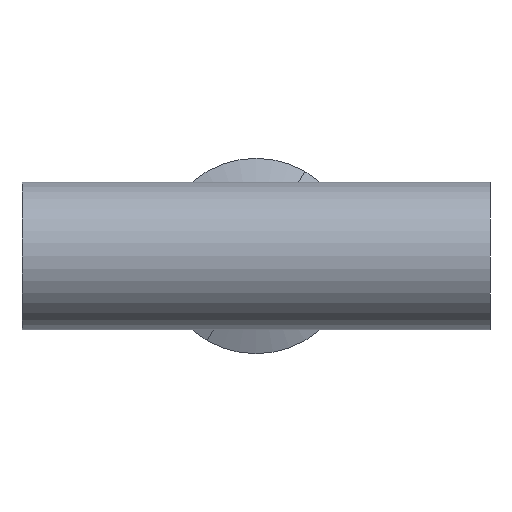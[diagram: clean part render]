
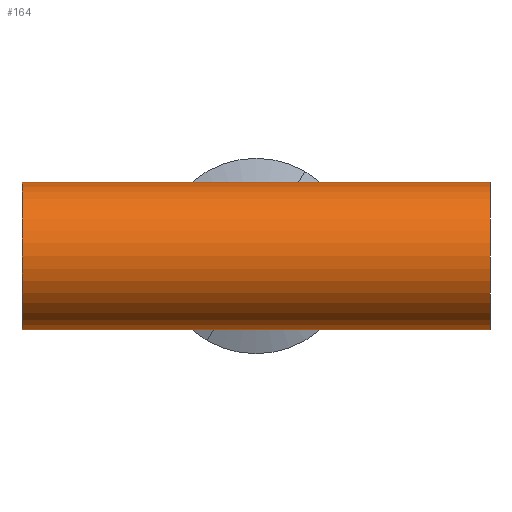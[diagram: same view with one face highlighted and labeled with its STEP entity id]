
A CAD part, front view. The second image highlights one B-rep face of the part: STEP entity #164.
In plain terms, the highlighted cylindrical face has radius 19.05 mm (diameter 38.1 mm), a partial arc.
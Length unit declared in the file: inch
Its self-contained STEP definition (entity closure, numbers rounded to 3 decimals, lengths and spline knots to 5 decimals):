
#6 = CARTESIAN_POINT ( 'NONE',  ( 2.375, 0., 0.75 ) ) ;
#63 = VERTEX_POINT ( 'NONE', #632 ) ;
#65 = LINE ( 'NONE', #365, #1475 ) ;
#72 = CARTESIAN_POINT ( 'NONE',  ( 0., 0., -0.75 ) ) ;
#120 = CARTESIAN_POINT ( 'NONE',  ( -2.375, 0., 0.75 ) ) ;
#151 = AXIS2_PLACEMENT_3D ( 'NONE', #352, #349, #702 ) ;
#164 = ADVANCED_FACE ( 'NONE', ( #1234 ), #1193, .T. ) ;
#176 = CIRCLE ( 'NONE', #151, 0.75 ) ;
#182 = CARTESIAN_POINT ( 'NONE',  ( 2.375, 0., -0.75 ) ) ;
#234 = EDGE_CURVE ( 'NONE', #63, #1056, #65, .T. ) ;
#263 = CARTESIAN_POINT ( 'NONE',  ( 0., 0., 0.75 ) ) ;
#286 = ORIENTED_EDGE ( 'NONE', *, *, #963, .F. ) ;
#310 = ORIENTED_EDGE ( 'NONE', *, *, #234, .F. ) ;
#349 = DIRECTION ( 'NONE',  ( 1., 0., 0. ) ) ;
#352 = CARTESIAN_POINT ( 'NONE',  ( 2.375, 0., 0. ) ) ;
#365 = CARTESIAN_POINT ( 'NONE',  ( 2.375, 0., -0.75 ) ) ;
#380 = CARTESIAN_POINT ( 'NONE',  ( -2.375, 0., 0. ) ) ;
#390 = LINE ( 'NONE', #551, #1212 ) ;
#421 = LINE ( 'NONE', #182, #1283 ) ;
#443 = DIRECTION ( 'NONE',  ( -1., 0., 0. ) ) ;
#487 = LINE ( 'NONE', #6, #521 ) ;
#495 = DIRECTION ( 'NONE',  ( 0., 0., -1. ) ) ;
#521 = VECTOR ( 'NONE', #1374, 39.37008 ) ;
#551 = CARTESIAN_POINT ( 'NONE',  ( 2.375, 0., 0.75 ) ) ;
#586 = EDGE_LOOP ( 'NONE', ( #310, #706, #955, #992, #1267, #286 ) ) ;
#616 = DIRECTION ( 'NONE',  ( -1., 0., 0. ) ) ;
#620 = AXIS2_PLACEMENT_3D ( 'NONE', #380, #1163, #495 ) ;
#632 = CARTESIAN_POINT ( 'NONE',  ( 2.375, 0., -0.75 ) ) ;
#653 = DIRECTION ( 'NONE',  ( 0., 0., 1. ) ) ;
#701 = VERTEX_POINT ( 'NONE', #263 ) ;
#702 = DIRECTION ( 'NONE',  ( 0., 0., -1. ) ) ;
#706 = ORIENTED_EDGE ( 'NONE', *, *, #912, .F. ) ;
#729 = AXIS2_PLACEMENT_3D ( 'NONE', #749, #757, #653 ) ;
#749 = CARTESIAN_POINT ( 'NONE',  ( 2.375, 0., 0. ) ) ;
#757 = DIRECTION ( 'NONE',  ( -1., 0., 0. ) ) ;
#761 = CIRCLE ( 'NONE', #620, 0.75 ) ;
#876 = EDGE_CURVE ( 'NONE', #701, #954, #487, .T. ) ;
#912 = EDGE_CURVE ( 'NONE', #1462, #63, #176, .T. ) ;
#954 = VERTEX_POINT ( 'NONE', #120 ) ;
#955 = ORIENTED_EDGE ( 'NONE', *, *, #1373, .T. ) ;
#963 = EDGE_CURVE ( 'NONE', #1056, #1187, #421, .T. ) ;
#979 = CARTESIAN_POINT ( 'NONE',  ( -2.375, 0., -0.75 ) ) ;
#992 = ORIENTED_EDGE ( 'NONE', *, *, #876, .T. ) ;
#1056 = VERTEX_POINT ( 'NONE', #72 ) ;
#1163 = DIRECTION ( 'NONE',  ( 1., 0., 0. ) ) ;
#1187 = VERTEX_POINT ( 'NONE', #979 ) ;
#1193 = CYLINDRICAL_SURFACE ( 'NONE', #729, 0.75 ) ;
#1212 = VECTOR ( 'NONE', #443, 39.37008 ) ;
#1234 = FACE_OUTER_BOUND ( 'NONE', #586, .T. ) ;
#1267 = ORIENTED_EDGE ( 'NONE', *, *, #1271, .T. ) ;
#1271 = EDGE_CURVE ( 'NONE', #954, #1187, #761, .T. ) ;
#1283 = VECTOR ( 'NONE', #1433, 39.37008 ) ;
#1373 = EDGE_CURVE ( 'NONE', #1462, #701, #390, .T. ) ;
#1374 = DIRECTION ( 'NONE',  ( -1., 0., 0. ) ) ;
#1433 = DIRECTION ( 'NONE',  ( -1., 0., 0. ) ) ;
#1462 = VERTEX_POINT ( 'NONE', #1488 ) ;
#1475 = VECTOR ( 'NONE', #616, 39.37008 ) ;
#1488 = CARTESIAN_POINT ( 'NONE',  ( 2.375, 0., 0.75 ) ) ;
